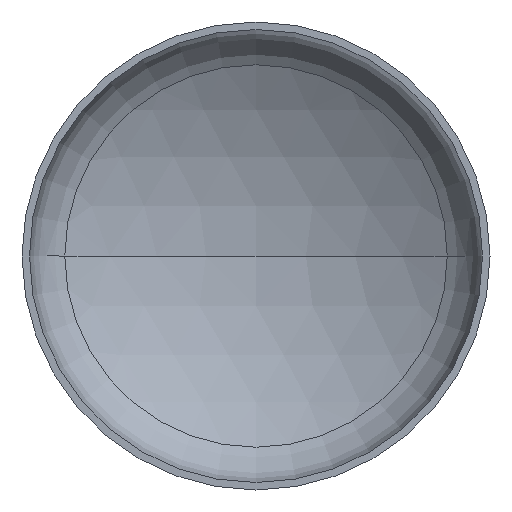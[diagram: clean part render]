
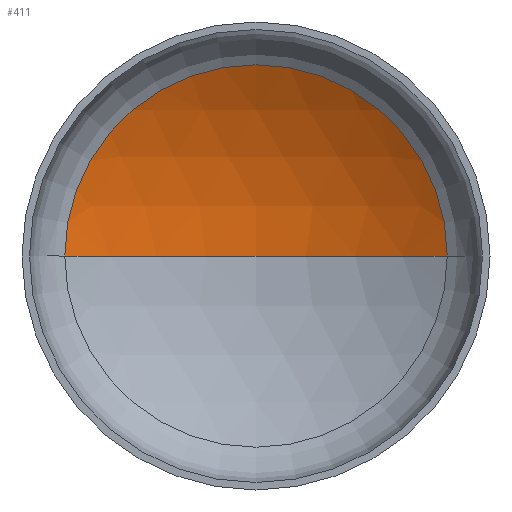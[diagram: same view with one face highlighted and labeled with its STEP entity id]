
A CAD part, front view. The second image highlights one B-rep face of the part: STEP entity #411.
In plain terms, the highlighted spherical face has radius 4800 mm.
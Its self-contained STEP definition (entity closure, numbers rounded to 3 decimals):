
#6 = ORIENTED_EDGE ( 'NONE', *, *, #197, .T. ) ;
#7 = CARTESIAN_POINT ( 'NONE',  ( 0., 895.272, 0. ) ) ;
#12 = ORIENTED_EDGE ( 'NONE', *, *, #201, .T. ) ;
#20 = VERTEX_POINT ( 'NONE', #249 ) ;
#33 = CIRCLE ( 'NONE', #137, 4800. ) ;
#45 = ORIENTED_EDGE ( 'NONE', *, *, #204, .F. ) ;
#69 = DIRECTION ( 'NONE',  ( 0., -1., 0. ) ) ;
#71 = VERTEX_POINT ( 'NONE', #245 ) ;
#77 = EDGE_LOOP ( 'NONE', ( #45, #12, #6 ) ) ;
#105 = VERTEX_POINT ( 'NONE', #242 ) ;
#133 = FACE_OUTER_BOUND ( 'NONE', #77, .T. ) ;
#137 = AXIS2_PLACEMENT_3D ( 'NONE', #266, #241, #237 ) ;
#141 = AXIS2_PLACEMENT_3D ( 'NONE', #255, #252, #250 ) ;
#155 = AXIS2_PLACEMENT_3D ( 'NONE', #7, #69, #355 ) ;
#180 = DIRECTION ( 'NONE',  ( -1., 0., 0. ) ) ;
#181 = CIRCLE ( 'NONE', #141, 4800. ) ;
#197 = EDGE_CURVE ( 'NONE', #71, #105, #365, .T. ) ;
#201 = EDGE_CURVE ( 'NONE', #20, #71, #181, .T. ) ;
#204 = EDGE_CURVE ( 'NONE', #20, #105, #33, .T. ) ;
#207 = DIRECTION ( 'NONE',  ( 0., 0., -1. ) ) ;
#237 = DIRECTION ( 'NONE',  ( 1., 0., 0. ) ) ;
#241 = DIRECTION ( 'NONE',  ( 0., 0., 1. ) ) ;
#242 = CARTESIAN_POINT ( 'NONE',  ( -2451.406, 895.272, 0. ) ) ;
#245 = CARTESIAN_POINT ( 'NONE',  ( 2451.406, 895.272, 0. ) ) ;
#249 = CARTESIAN_POINT ( 'NONE',  ( 0., 1568.456, 0. ) ) ;
#250 = DIRECTION ( 'NONE',  ( -1., 0., 0. ) ) ;
#252 = DIRECTION ( 'NONE',  ( 0., 0., -1. ) ) ;
#255 = CARTESIAN_POINT ( 'NONE',  ( 0., -3231.544, 0. ) ) ;
#266 = CARTESIAN_POINT ( 'NONE',  ( 0., -3231.544, 0. ) ) ;
#276 = CARTESIAN_POINT ( 'NONE',  ( 0., -3231.544, 0. ) ) ;
#350 = AXIS2_PLACEMENT_3D ( 'NONE', #276, #207, #180 ) ;
#355 = DIRECTION ( 'NONE',  ( 1., 0., 0. ) ) ;
#365 = CIRCLE ( 'NONE', #155, 2451.406 ) ;
#388 = SPHERICAL_SURFACE ( 'NONE', #350, 4800. ) ;
#411 = ADVANCED_FACE ( 'NONE', ( #133 ), #388, .F. ) ;
